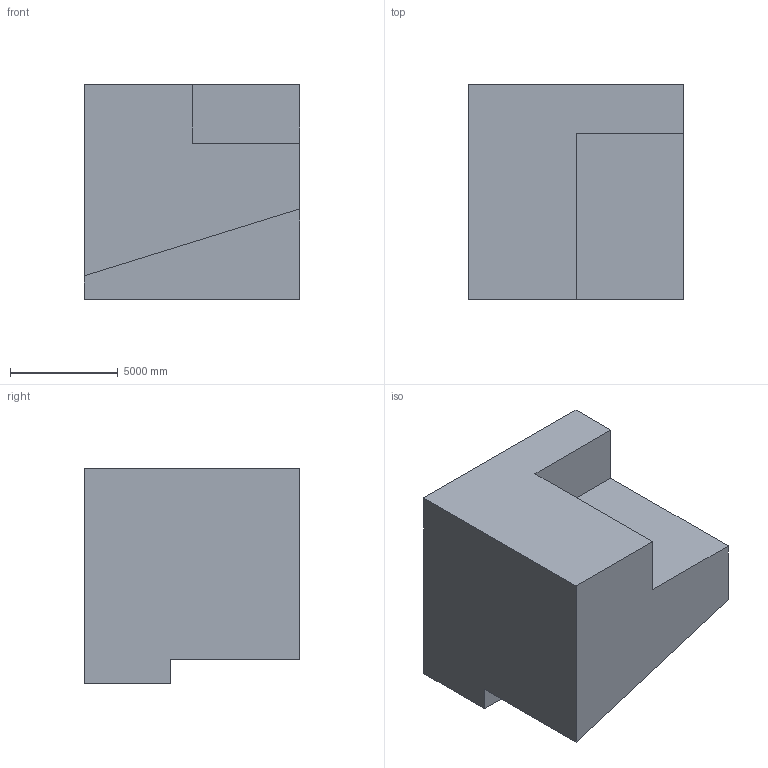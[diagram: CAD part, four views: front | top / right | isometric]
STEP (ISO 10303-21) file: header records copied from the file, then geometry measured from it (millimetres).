
FILE_DESCRIPTION (( 'STEP AP203' ), '1' );
FILE_NAME ('94.STEP', '2022-07-28T13:36:02', ( 'user' ), ( '' ), 'SwSTEP 2.0', 'SolidWorks 2021', '' );
FILE_SCHEMA (( 'CONFIG_CONTROL_DESIGN' ));
Length unit declared in the file: centimetre
Products named in the file (1): 94
Bounding box: 10000 x 10000 x 10000 mm (x, y, z)
Volume: 735153591255.9 mm3; surface area: 570868736.6 mm2
Topology: 1 solids, 1 shells, 11 faces, 27 edges, 18 vertices
Faces by surface type: plane 11
Entity records: 398 total; most frequent: CARTESIAN_POINT 57, ORIENTED_EDGE 54, DIRECTION 51, EDGE_CURVE 27, VECTOR 27, LINE 27, VERTEX_POINT 18, AXIS2_PLACEMENT_3D 12
